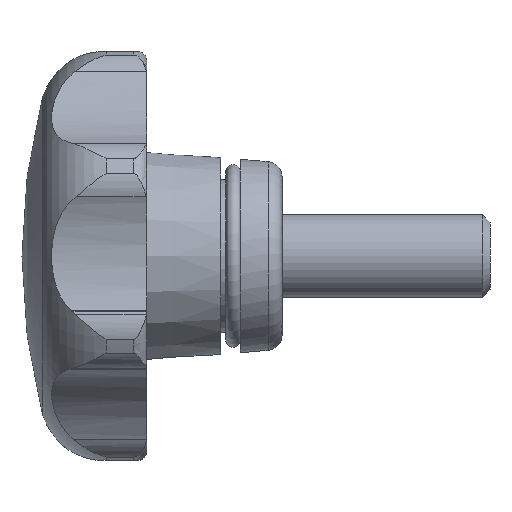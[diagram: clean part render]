
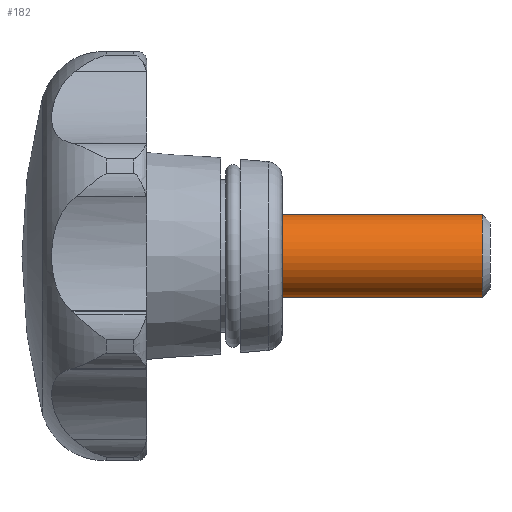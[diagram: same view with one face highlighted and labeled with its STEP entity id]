
A CAD part, left-side view. The second image highlights one B-rep face of the part: STEP entity #182.
In plain terms, the highlighted cylindrical face has radius 4 mm (diameter 8 mm), a full revolution.
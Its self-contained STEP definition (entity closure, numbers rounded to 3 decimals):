
#182 = ADVANCED_FACE( '', ( #364, #365 ), #366, .T. );
#364 = FACE_OUTER_BOUND( '', #729, .T. );
#365 = FACE_OUTER_BOUND( '', #730, .T. );
#366 = CYLINDRICAL_SURFACE( '', #731, 4. );
#729 = EDGE_LOOP( '', ( #1133 ) );
#730 = EDGE_LOOP( '', ( #1134 ) );
#731 = AXIS2_PLACEMENT_3D( '', #1135, #1136, #1137 );
#1133 = ORIENTED_EDGE( '', *, *, #2287, .F. );
#1134 = ORIENTED_EDGE( '', *, *, #2288, .T. );
#1135 = CARTESIAN_POINT( '', ( 0., -20., 0. ) );
#1136 = DIRECTION( '', ( 0., 1., 0. ) );
#1137 = DIRECTION( '', ( 0., 0., -1. ) );
#2287 = EDGE_CURVE( '', #2682, #2682, #2683, .T. );
#2288 = EDGE_CURVE( '', #2684, #2684, #2685, .T. );
#2682 = VERTEX_POINT( '', #3393 );
#2683 = CIRCLE( '', #3394, 4. );
#2684 = VERTEX_POINT( '', #3395 );
#2685 = CIRCLE( '', #3396, 4. );
#3393 = CARTESIAN_POINT( '', ( 0., -19.233, -4. ) );
#3394 = AXIS2_PLACEMENT_3D( '', #5058, #5059, #5060 );
#3395 = CARTESIAN_POINT( '', ( 0., 0., -4. ) );
#3396 = AXIS2_PLACEMENT_3D( '', #5061, #5062, #5063 );
#5058 = CARTESIAN_POINT( '', ( 0., -19.233, 0. ) );
#5059 = DIRECTION( '', ( 0., -1., 0. ) );
#5060 = DIRECTION( '', ( 0., 0., -1. ) );
#5061 = CARTESIAN_POINT( '', ( 0., 0., 0. ) );
#5062 = DIRECTION( '', ( 0., -1., 0. ) );
#5063 = DIRECTION( '', ( 0., 0., -1. ) );
